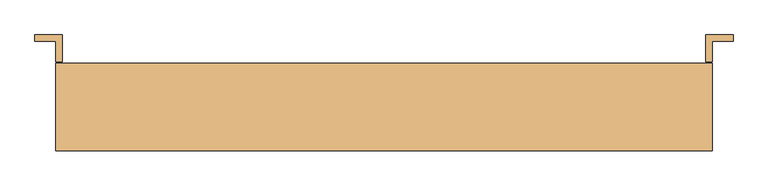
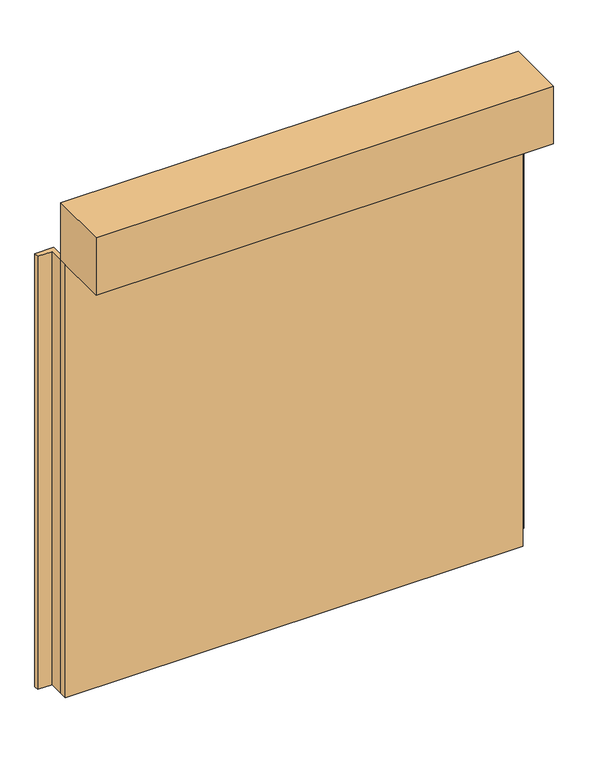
"""IFC4 building model written with IfcOpenShell, lengths in millimetres: door geometry, Rollershutter : 3000(w) x 3000(h)."""

from ifc_helpers import new_model, si_unit, frame, origin, origin_with_axes, place, context, project, spatial, polyline, outline, extrude, source, transform, mapped, element, save


def door_dfba81bd(model_context):
    return source(origin(), model_context, "Body", "SweptSolid", [
        extrude(outline(polyline([(1100.0, -50.0), (1100.0, -101.0), (-1900.0, -101.0), (-1900.0, -50.0), (1100.0, -50.0)])), origin_with_axes(), (0.0, 0.0, 1.0), 3000.0),
        extrude(outline(polyline([(-1995.0, 80.0), (-1870.0, 80.0), (-1870.0, -41.8), (-1900.0, -41.8), (-1900.0, 50.0), (-1995.0, 50.0), (-1995.0, 80.0)])), origin_with_axes(), (0.0, 0.0, 1.0), 3000.0),
        extrude(outline(polyline([(1195.0, 80.0), (1195.0, 50.0), (1100.0, 50.0), (1100.0, -41.8), (1070.0, -41.8), (1070.0, 80.0), (1195.0, 80.0)])), origin_with_axes(), (0.0, 0.0, 1.0), 3000.0),
        extrude(outline(polyline([(-1900.0, -450.0), (-1900.0, -50.0), (1100.0, -50.0), (1100.0, -450.0), (-1900.0, -450.0)])), frame((0.0, 0.0, 3000.0), z_axis=(0.0, 0.0, 1.0), x_axis=(1.0, 0.0, 0.0)), (0.0, 0.0, 1.0), 400.0),
    ])


if __name__ == "__main__":
    model = new_model("IFC4")
    model_context = context("Model", 3, world=origin())
    ifc_project = project(units=[si_unit("LENGTHUNIT", "METRE", prefix="MILLI")], contexts=[model_context])
    site = spatial("IfcSite", under=ifc_project)
    building = spatial("IfcBuilding", under=site)
    placement = place(None, origin())
    door_shape = door_dfba81bd(model_context)
    element("IfcDoor", 1, ObjectType="Rollershutter : 3000(w) x 3000(h)", at=placement, inside=building, context=model_context, shape_type="MappedRepresentation", body=[
        mapped(door_shape, transform((0.0, 0.0, 0.0), x_axis=(1.0, 0.0, 0.0), y_axis=(0.0, 1.0, 0.0), z_axis=(0.0, 0.0, 1.0))),
    ])
    save(model, "model.ifc")
